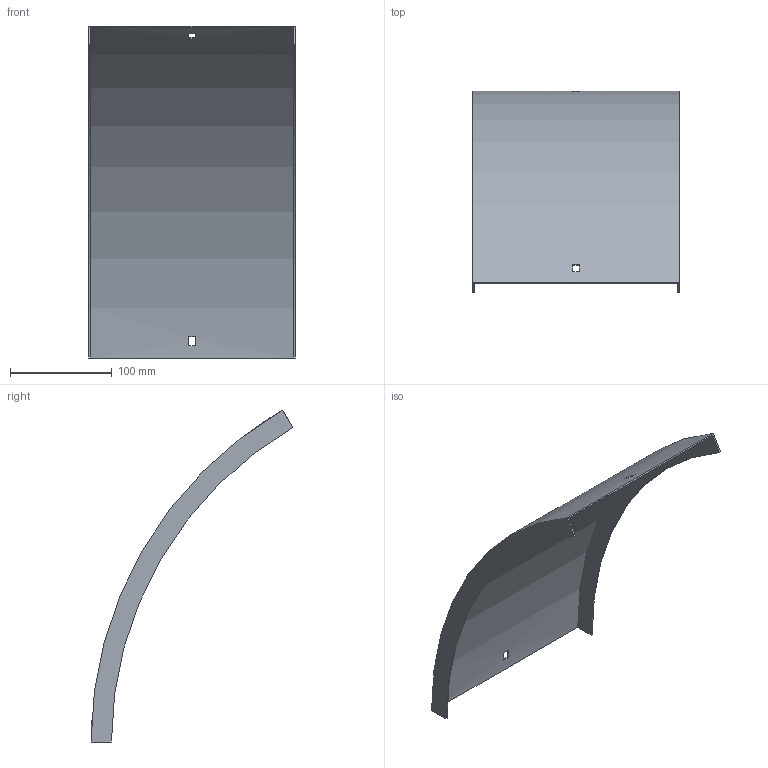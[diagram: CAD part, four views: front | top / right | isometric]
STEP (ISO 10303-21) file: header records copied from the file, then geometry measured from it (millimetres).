
FILE_DESCRIPTION (( 'STEP AP214' ), '1' );
FILE_NAME ('B2_41N3C200.step', '2025-02-21T10:41:02', ( '' ), ( '' ), 'SwSTEP 2.0', 'SolidWorks 2023', '' );
FILE_SCHEMA (( 'AUTOMOTIVE_DESIGN' ));
Length unit declared in the file: millimetre
Products named in the file (1): B2_41N3C200
Bounding box: 203 x 198.25 x 326.06 mm (x, y, z)
Volume: 140897.5 mm3; surface area: 189798.8 mm2
Topology: 1 solids, 1 shells, 18 faces, 48 edges, 32 vertices
Faces by surface type: plane 14, cylinder 4
Entity records: 599 total; most frequent: DIRECTION 102, CARTESIAN_POINT 99, ORIENTED_EDGE 96, EDGE_CURVE 48, AXIS2_PLACEMENT_3D 35, VECTOR 32, LINE 32, VERTEX_POINT 32
